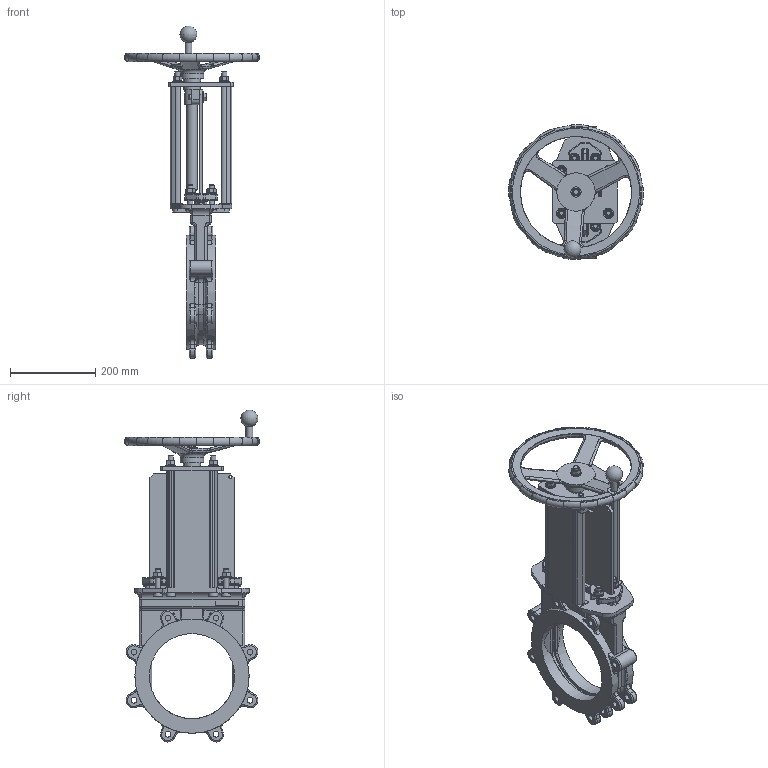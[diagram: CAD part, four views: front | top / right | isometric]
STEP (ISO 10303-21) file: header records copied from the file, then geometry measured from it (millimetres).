
FILE_DESCRIPTION(/* description */ (''),/* implementation_level */ '2;1');
FILE_NAME(/* name */ 'F:\Emir\3D-block special\WB\WB14E-DN200-PN10-HW.stp',/* time_stamp */ '2018-09-13T08:59:10+02:00',/* author */ ('emimus'),/* organization */ (''),/* preprocessor_version */ 'ST-DEVELOPER v17.2',/* originating_system */ 'Autodesk Inventor 2019',/* authorisation */ '');
FILE_SCHEMA (('CONFIG_CONTROL_DESIGN'));
Length unit declared in the file: millimetre
Products named in the file (1): WB14E-DN200-PN10-HW_Shrinkwrap_1
Bounding box: 316.79 x 316.79 x 779.5 mm (x, y, z)
Volume: 5114616.3 mm3; surface area: 1064365.6 mm2
Topology: 1 solids, 1 shells, 1646 faces, 4245 edges, 2629 vertices
Faces by surface type: plane 643, cylinder 494, torus 217, bspline 197, cone 58, sphere 37
Full cylindrical faces by diameter (mm): 7 x1, 8.376 x1, 10.106 x4, 12 x23, 13 x8, 13.835 x16, 15 x1, 15.5 x1, 16 x1, 16.63 x2, 20 x2, 24 x12, 40 x2, 55 x1, 200 x2, 268 x2, 298 x1
Entity records: 54718 total; most frequent: CARTESIAN_POINT 15076, ORIENTED_EDGE 8462, DIRECTION 8297, EDGE_CURVE 4231, AXIS2_PLACEMENT_3D 3206, VERTEX_POINT 2629, LINE 1885, VECTOR 1885
